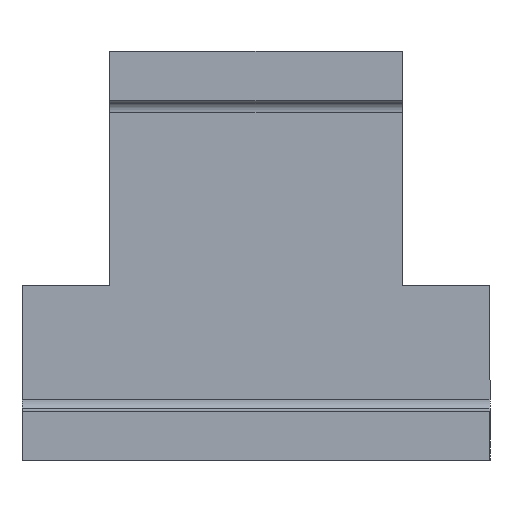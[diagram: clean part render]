
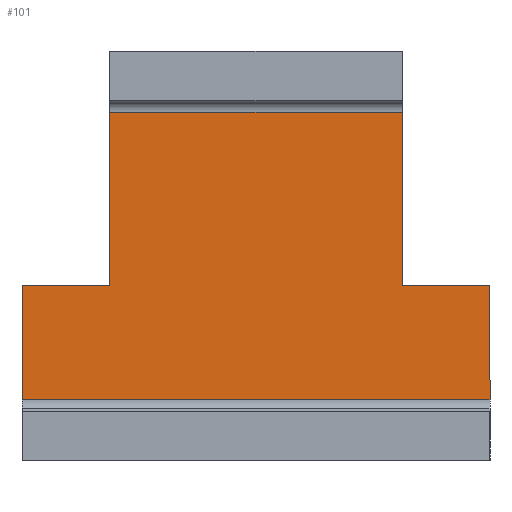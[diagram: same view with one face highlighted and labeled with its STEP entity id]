
A CAD part, left-side view. The second image highlights one B-rep face of the part: STEP entity #101.
In plain terms, the highlighted planar face has unit normal (-1, 0, 0).
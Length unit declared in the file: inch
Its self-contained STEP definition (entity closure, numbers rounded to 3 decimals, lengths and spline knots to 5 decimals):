
#101=ADVANCED_FACE('',(#197),#198,.T.);
#197=FACE_OUTER_BOUND('',#312,.T.);
#198=PLANE('',#313);
#312=EDGE_LOOP('',(#536,#537,#538,#539,#540,#541,#542,#543));
#313=AXIS2_PLACEMENT_3D('',#544,#545,#546);
#536=ORIENTED_EDGE('',*,*,#650,.F.);
#537=ORIENTED_EDGE('',*,*,#603,.T.);
#538=ORIENTED_EDGE('',*,*,#629,.T.);
#539=ORIENTED_EDGE('',*,*,#567,.F.);
#540=ORIENTED_EDGE('',*,*,#645,.F.);
#541=ORIENTED_EDGE('',*,*,#632,.T.);
#542=ORIENTED_EDGE('',*,*,#647,.T.);
#543=ORIENTED_EDGE('',*,*,#624,.T.);
#544=CARTESIAN_POINT('',(6.89501,0.5,-0.105));
#545=DIRECTION('',(-1.0,-0.0,0.0));
#546=DIRECTION('',(0.0,-1.0,-0.0));
#567=EDGE_CURVE('',#674,#676,#677,.T.);
#603=EDGE_CURVE('',#736,#734,#737,.T.);
#624=EDGE_CURVE('',#767,#765,#768,.T.);
#629=EDGE_CURVE('',#734,#676,#773,.T.);
#632=EDGE_CURVE('',#777,#775,#778,.T.);
#645=EDGE_CURVE('',#777,#674,#792,.T.);
#647=EDGE_CURVE('',#775,#767,#794,.T.);
#650=EDGE_CURVE('',#736,#765,#797,.T.);
#674=VERTEX_POINT('',#826);
#676=VERTEX_POINT('',#828);
#677=LINE('',#829,#830);
#734=VERTEX_POINT('',#916);
#736=VERTEX_POINT('',#919);
#737=LINE('',#920,#921);
#765=VERTEX_POINT('',#966);
#767=VERTEX_POINT('',#968);
#768=LINE('',#969,#970);
#773=LINE('',#979,#980);
#775=VERTEX_POINT('',#982);
#777=VERTEX_POINT('',#985);
#778=LINE('',#986,#987);
#792=LINE('',#1008,#1009);
#794=LINE('',#1011,#1012);
#797=LINE('',#1015,#1016);
#826=CARTESIAN_POINT('',(6.89501,1.0,0.025));
#828=CARTESIAN_POINT('',(6.89501,1.0,0.27));
#829=CARTESIAN_POINT('',(6.89501,1.0,-0.105));
#830=VECTOR('',#1040,1.0);
#916=CARTESIAN_POINT('',(6.89501,0.8125,0.27));
#919=CARTESIAN_POINT('',(6.89501,0.8125,0.64));
#920=CARTESIAN_POINT('',(6.89501,0.8125,0.2075));
#921=VECTOR('',#1074,1.0);
#966=CARTESIAN_POINT('',(6.89501,0.1875,0.64));
#968=CARTESIAN_POINT('',(6.89501,0.1875,0.27));
#969=CARTESIAN_POINT('',(6.89501,0.1875,0.2075));
#970=VECTOR('',#1098,1.0);
#979=CARTESIAN_POINT('',(6.89501,0.70313,0.27));
#980=VECTOR('',#1100,1.0);
#982=CARTESIAN_POINT('',(6.89501,0.,0.27));
#985=CARTESIAN_POINT('',(6.89501,0.,0.025));
#986=CARTESIAN_POINT('',(6.89501,0.,-0.105));
#987=VECTOR('',#1102,1.0);
#1008=CARTESIAN_POINT('',(6.89501,0.5,0.025));
#1009=VECTOR('',#1113,1.0);
#1011=CARTESIAN_POINT('',(6.89501,0.29688,0.27));
#1012=VECTOR('',#1114,1.0);
#1015=CARTESIAN_POINT('',(6.89501,0.5,0.64));
#1016=VECTOR('',#1115,1.0);
#1040=DIRECTION('',(0.0,0.0,1.0));
#1074=DIRECTION('',(0.0,0.0,-1.0));
#1098=DIRECTION('',(0.0,0.0,1.0));
#1100=DIRECTION('',(0.0,1.0,0.0));
#1102=DIRECTION('',(0.0,0.0,1.0));
#1113=DIRECTION('',(0.0,1.0,-0.0));
#1114=DIRECTION('',(0.0,1.0,0.0));
#1115=DIRECTION('',(-0.0,-1.0,0.));
